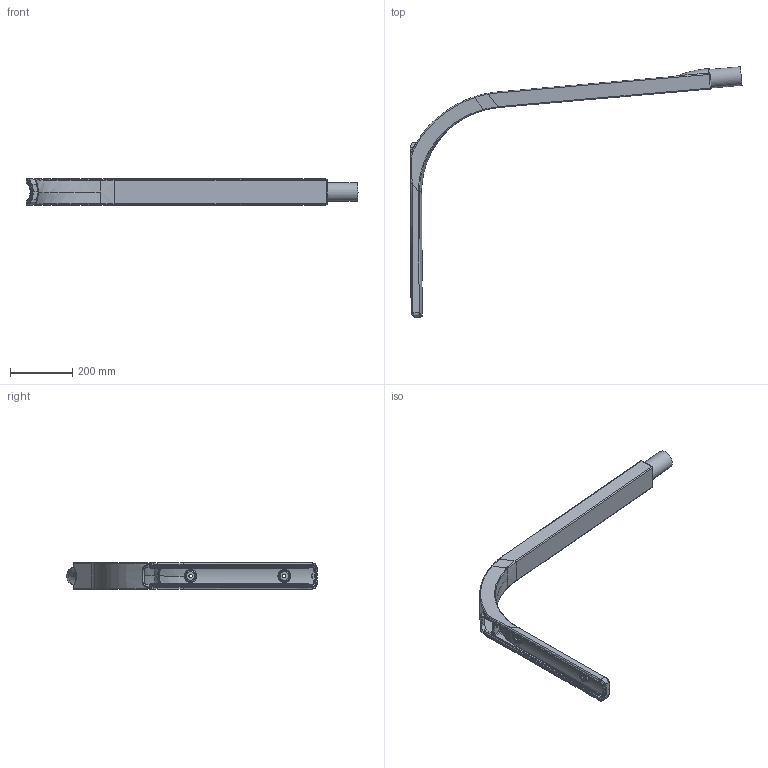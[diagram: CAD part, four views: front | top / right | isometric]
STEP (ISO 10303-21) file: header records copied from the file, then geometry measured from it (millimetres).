
FILE_DESCRIPTION((''),'2;1');
FILE_NAME('3350876','2012-01-16T',('IMAU'),('n|p|k industrial design bv'),'PRO/ENGINEER BY PARAMETRIC TECHNOLOGY CORPORATION, 2007390','PRO/ENGINEER BY PARAMETRIC TECHNOLOGY CORPORATION, 2007390','');
FILE_SCHEMA(('CONFIG_CONTROL_DESIGN'));
Length unit declared in the file: millimetre
Products named in the file (1): 3350876
Bounding box: 1062.86 x 801.72 x 85.87 mm (x, y, z)
Volume: 2079001.2 mm3; surface area: 686757.5 mm2
Topology: 1 solids, 1 shells, 418 faces, 993 edges, 579 vertices
Faces by surface type: bspline 248, cylinder 59, plane 48, extrusion 29, cone 14, torus 12, sphere 8
Entity records: 22317 total; most frequent: CARTESIAN_POINT 14458, ORIENTED_EDGE 1982, DIRECTION 1096, EDGE_CURVE 991, VERTEX_POINT 579, B_SPLINE_CURVE_WITH_KNOTS 529, AXIS2_PLACEMENT_3D 435, EDGE_LOOP 432
